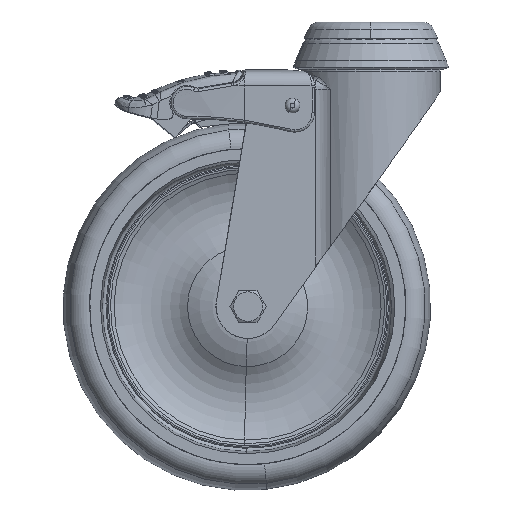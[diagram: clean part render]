
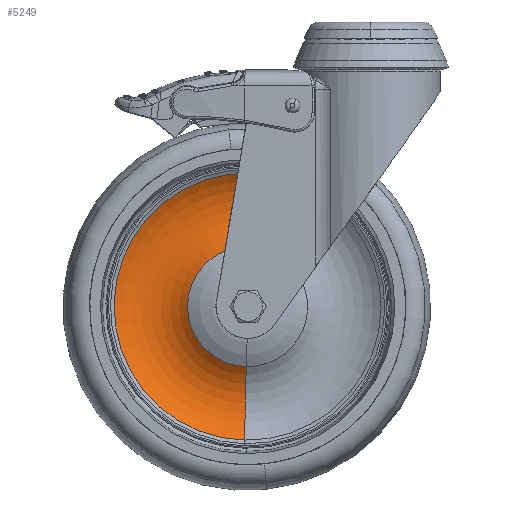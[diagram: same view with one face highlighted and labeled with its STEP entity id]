
A CAD part, top view. The second image highlights one B-rep face of the part: STEP entity #5249.
In plain terms, the highlighted toroidal (fillet/blend) face has major radius 39.626 mm and minor radius 24.071 mm.
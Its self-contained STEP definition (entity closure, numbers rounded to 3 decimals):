
#4686 = VERTEX_POINT ( 'NONE', #16595 ) ;
#4765 = VERTEX_POINT ( 'NONE', #16761 ) ;
#4795 = VERTEX_POINT ( 'NONE', #16831 ) ;
#4811 = EDGE_LOOP ( 'NONE', ( #5149, #5147, #5228, #4896 ) ) ;
#4896 = ORIENTED_EDGE ( 'NONE', *, *, #4906, .F. ) ;
#4906 = EDGE_CURVE ( 'NONE', #4765, #4795, #17130, .T. ) ;
#5144 = EDGE_CURVE ( 'NONE', #5209, #4795, #17706, .T. ) ;
#5147 = ORIENTED_EDGE ( 'NONE', *, *, #5153, .T. ) ;
#5149 = ORIENTED_EDGE ( 'NONE', *, *, #5311, .F. ) ;
#5153 = EDGE_CURVE ( 'NONE', #4686, #5209, #17714, .T. ) ;
#5209 = VERTEX_POINT ( 'NONE', #17953 ) ;
#5228 = ORIENTED_EDGE ( 'NONE', *, *, #5144, .T. ) ;
#5249 = ADVANCED_FACE ( 'NONE', ( #18045 ), #18048, .F. ) ;
#5311 = EDGE_CURVE ( 'NONE', #4686, #4765, #18316, .T. ) ;
#16595 = CARTESIAN_POINT ( 'NONE',  ( 70.944, -166.215, 164.393 ) ) ;
#16761 = CARTESIAN_POINT ( 'NONE',  ( 73.231, -57.385, 164.345 ) ) ;
#16831 = CARTESIAN_POINT ( 'NONE',  ( 72.607, -87.331, 164.636 ) ) ;
#17130 = CIRCLE ( 'NONE', #17136, 24.071 ) ;
#17134 = DIRECTION ( 'NONE',  ( -1., 0.021, 0.021 ) ) ;
#17135 = CARTESIAN_POINT ( 'NONE',  ( 73.319, -72.183, 183.33 ) ) ;
#17136 = AXIS2_PLACEMENT_3D ( 'NONE', #17135, #17134, #17178 ) ;
#17178 = DIRECTION ( 'NONE',  ( -0.021, -1., 0. ) ) ;
#17694 = CARTESIAN_POINT ( 'NONE',  ( 72.093, -111.8, 164.647 ) ) ;
#17696 = AXIS2_PLACEMENT_3D ( 'NONE', #17694, #17717, #17716 ) ;
#17698 = CARTESIAN_POINT ( 'NONE',  ( 71.654, -151.417, 183.365 ) ) ;
#17706 = CIRCLE ( 'NONE', #17696, 24.475 ) ;
#17714 = CIRCLE ( 'NONE', #17715, 24.071 ) ;
#17715 = AXIS2_PLACEMENT_3D ( 'NONE', #17698, #17781, #17771 ) ;
#17716 = DIRECTION ( 'NONE',  ( 0.021, 1., 0. ) ) ;
#17717 = DIRECTION ( 'NONE',  ( -0.021, 0., -1. ) ) ;
#17771 = DIRECTION ( 'NONE',  ( 0.021, 1., 0. ) ) ;
#17781 = DIRECTION ( 'NONE',  ( 1., -0.021, -0.021 ) ) ;
#17953 = CARTESIAN_POINT ( 'NONE',  ( 71.579, -136.27, 164.657 ) ) ;
#18042 = CARTESIAN_POINT ( 'NONE',  ( 72.486, -111.8, 183.347 ) ) ;
#18044 = AXIS2_PLACEMENT_3D ( 'NONE', #18042, #18097, #18096 ) ;
#18045 = FACE_OUTER_BOUND ( 'NONE', #4811, .T. ) ;
#18048 = TOROIDAL_SURFACE ( 'NONE', #18044, 39.626, 24.071 ) ;
#18096 = DIRECTION ( 'NONE',  ( 0.021, 1., 0. ) ) ;
#18097 = DIRECTION ( 'NONE',  ( -0.021, 0., -1. ) ) ;
#18313 = DIRECTION ( 'NONE',  ( 0.021, 1., 0. ) ) ;
#18314 = DIRECTION ( 'NONE',  ( -0.021, 0., -1. ) ) ;
#18315 = AXIS2_PLACEMENT_3D ( 'NONE', #18319, #18314, #18313 ) ;
#18316 = CIRCLE ( 'NONE', #18315, 54.427 ) ;
#18319 = CARTESIAN_POINT ( 'NONE',  ( 72.087, -111.8, 164.369 ) ) ;
